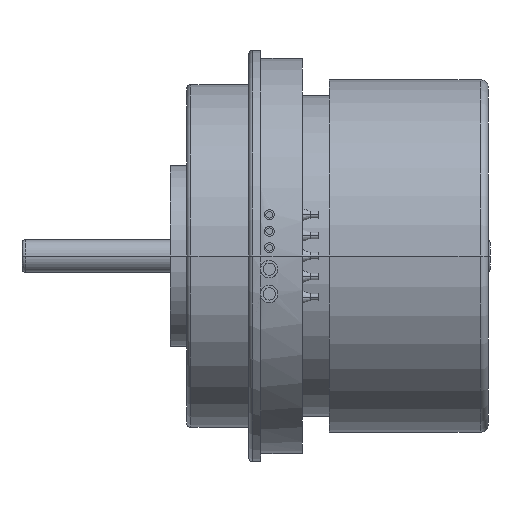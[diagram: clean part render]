
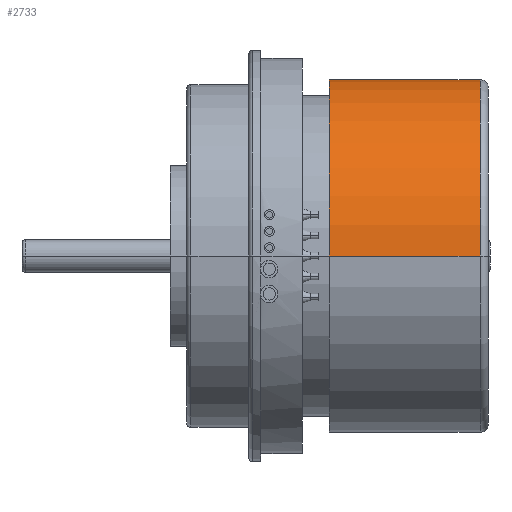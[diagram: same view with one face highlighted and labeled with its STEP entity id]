
A CAD part, front view. The second image highlights one B-rep face of the part: STEP entity #2733.
In plain terms, the highlighted cylindrical face has radius 21.4 mm (diameter 42.8 mm), a partial arc.
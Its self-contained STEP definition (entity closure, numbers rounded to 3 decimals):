
#952=CARTESIAN_POINT('',(9.8,0.,0.));
#953=DIRECTION('',(1.,0.,0.));
#954=DIRECTION('',(0.,1.,0.));
#955=AXIS2_PLACEMENT_3D('',#952,#953,#954);
#962=CARTESIAN_POINT('',(28.1,0.,0.));
#963=DIRECTION('',(-1.,0.,0.));
#964=DIRECTION('',(0.,-1.,0.));
#965=AXIS2_PLACEMENT_3D('',#962,#963,#964);
#982=DIRECTION('',(-1.,0.,0.));
#983=VECTOR('',#982,18.3);
#984=CARTESIAN_POINT('',(28.1,21.4,0.));
#985=LINE('',#984,#983);
#986=DIRECTION('',(-1.,0.,0.));
#987=VECTOR('',#986,18.3);
#988=CARTESIAN_POINT('',(28.1,-21.4,0.));
#989=LINE('',#988,#987);
#1425=CARTESIAN_POINT('',(9.8,21.4,0.));
#1426=CARTESIAN_POINT('',(9.8,-21.4,0.));
#1427=VERTEX_POINT('',#1425);
#1428=VERTEX_POINT('',#1426);
#1437=CARTESIAN_POINT('',(28.1,21.4,0.));
#1438=CARTESIAN_POINT('',(28.1,-21.4,0.));
#1439=VERTEX_POINT('',#1437);
#1440=VERTEX_POINT('',#1438);
#2719=CARTESIAN_POINT('',(-30.34,0.,0.));
#2720=DIRECTION('',(1.,0.,0.));
#2721=DIRECTION('',(0.,-1.,0.));
#2722=AXIS2_PLACEMENT_3D('',#2719,#2720,#2721);
#2723=CYLINDRICAL_SURFACE('',#2722,21.4);
#2725=ORIENTED_EDGE('',*,*,#2724,.F.);
#2727=ORIENTED_EDGE('',*,*,#2726,.T.);
#2728=ORIENTED_EDGE('',*,*,#2708,.F.);
#2730=ORIENTED_EDGE('',*,*,#2729,.F.);
#2731=EDGE_LOOP('',(#2725,#2727,#2728,#2730));
#2732=FACE_OUTER_BOUND('',#2731,.F.);
#2733=ADVANCED_FACE('',(#2732),#2723,.T.);
#956=CIRCLE('',#955,21.4);
#966=CIRCLE('',#965,21.4);
#2708=EDGE_CURVE('',#1427,#1428,#956,.T.);
#2724=EDGE_CURVE('',#1440,#1439,#966,.T.);
#2726=EDGE_CURVE('',#1440,#1428,#989,.T.);
#2729=EDGE_CURVE('',#1439,#1427,#985,.T.);
